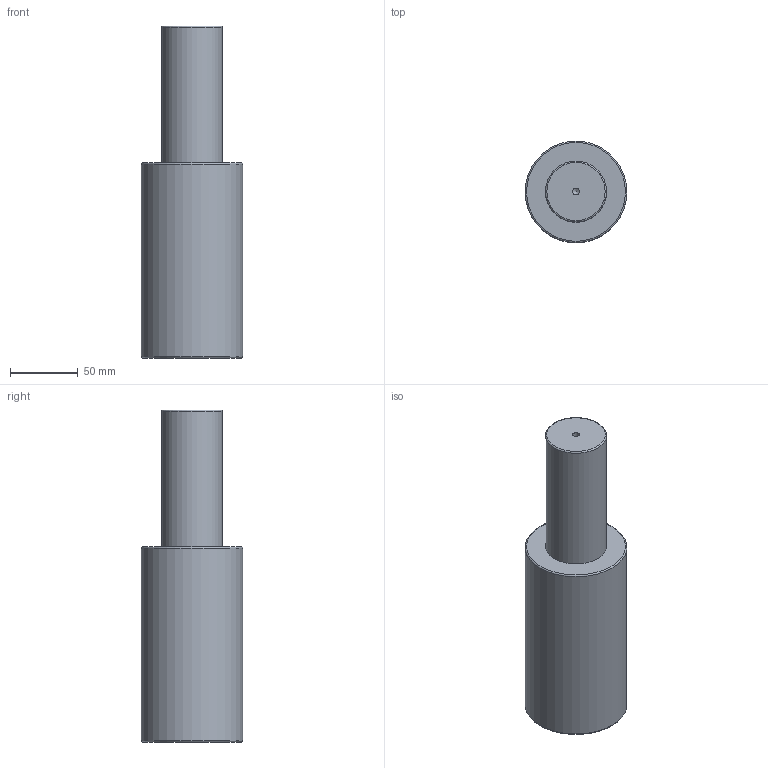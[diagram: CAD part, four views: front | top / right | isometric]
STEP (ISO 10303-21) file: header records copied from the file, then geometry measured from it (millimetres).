
FILE_DESCRIPTION(/* description */ (''),/* implementation_level */ '2;1');
FILE_NAME(/* name */ 'NV5-SMLX.75x100.stp',/* time_stamp */ '2018-08-31T16:08:30+02:00',/* author */ (''),/* organization */ (''),/* preprocessor_version */ 'ST-DEVELOPER v16',/* originating_system */ 'SIEMENS PLM Software NX 10.0',/* authorisation */ '');
FILE_SCHEMA (('AUTOMOTIVE_DESIGN { 1 0 10303 214 3 1 1 1 }'));
Length unit declared in the file: millimetre
Products named in the file (1): NV5-SMLX.75x100
Bounding box: 75 x 75 x 245 mm (x, y, z)
Volume: 794697.3 mm3; surface area: 57616.3 mm2
Topology: 1 solids, 1 shells, 12 faces, 24 edges, 15 vertices
Faces by surface type: cylinder 4, torus 3, plane 3, cone 2
Full cylindrical faces by diameter (mm): 5 x1, 10.3 x1, 45 x1, 75 x1
Entity records: 266 total; most frequent: DIRECTION 48, CARTESIAN_POINT 37, FACE_BOUND 24, AXIS2_PLACEMENT_3D 24, EDGE_LOOP 22, ORIENTED_EDGE 22, VERTEX_POINT 13, ADVANCED_FACE 12
